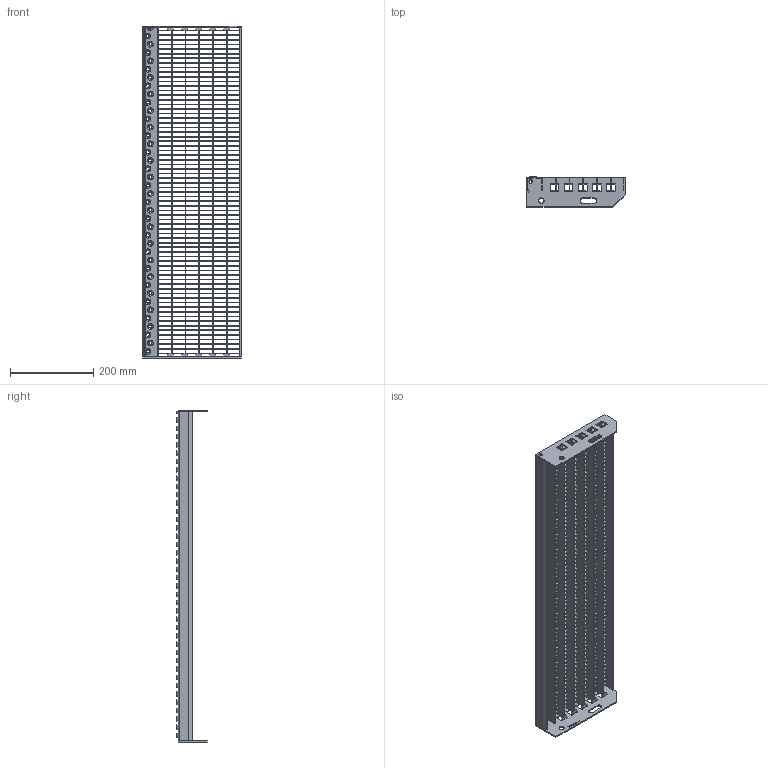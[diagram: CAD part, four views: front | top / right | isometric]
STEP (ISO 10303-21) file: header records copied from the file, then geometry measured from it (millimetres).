
FILE_DESCRIPTION(/* description */ ('','CAx-IF Rec.Pracs.---Representation and Presentation of Product Manufacturing Information (PMI)---3.8---2014-02-18'),/* implementation_level */ '2;1');
FILE_NAME(/* name */ 'C:\Users\phaverkotte\Desktop\Lager STEP\P-Stufen\P 230-33 11-2\P 230-33 11-2 800mm x 240mm.stp',/* time_stamp */ '2018-03-24T11:16:24+01:00',/* author */ ('phaverkotte'),/* organization */ (''),/* preprocessor_version */ 'ST-DEVELOPER v16.13',/* originating_system */ 'Autodesk Inventor 2018',/* authorisation */ '');
FILE_SCHEMA (('AP242_MANAGED_MODEL_BASED_3D_ENGINEERING_MIM_LF { 1 0 10303 442 1 1 4 }'));
Length unit declared in the file: millimetre
Products named in the file (8): Schodišťový stupeň přím
ý lisovaný; Seitenplatte ausgeklinkt links; Seitenplatte 240 ausgeklinkt extern rechts; Schod nášlap; P Rošt schodu; Querstab; P Nosný pás; Hinteres Flach
Assembly tree (82 placements, depth 3):
  Schodišťový stupeň přím
ý lisovaný
    Seitenplatte ausgeklinkt links
    Seitenplatte 240 ausgeklinkt extern rechts
    Schod nášlap
    P Rošt schodu
      Querstab  x71
      P Nosný pás  x6
      Hinteres Flach
Bounding box: 236.98 x 72.75 x 800 mm (x, y, z)
Volume: 752650.5 mm3; surface area: 839172.4 mm2
Topology: 81 solids, 81 shells, 2750 faces, 7615 edges, 5044 vertices
Faces by surface type: plane 2458, cone 120, cylinder 112, torus 40, bspline 20
Full cylindrical faces by diameter (mm): 8 x2, 13 x2
Entity records: 31077 total; most frequent: CARTESIAN_POINT 8251, DIRECTION 4496, ORIENTED_EDGE 4432, EDGE_CURVE 2216, LINE 1744, VECTOR 1744, VERTEX_POINT 1525, AXIS2_PLACEMENT_3D 1376
